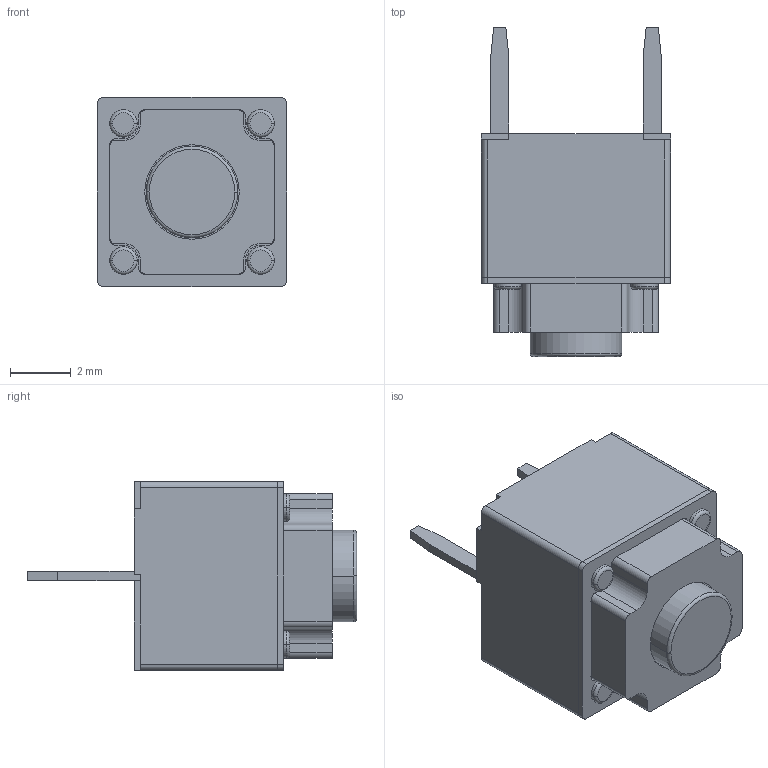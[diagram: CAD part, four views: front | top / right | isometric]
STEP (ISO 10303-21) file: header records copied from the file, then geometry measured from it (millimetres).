
FILE_DESCRIPTION((''),'2;1');
FILE_NAME('JSE6060-H0350-30C-104_ASM','2026-05-26T11:19:37',('Admin'),(''),'CREO PARAMETRIC BY PTC INC, 2019224','CREO PARAMETRIC BY PTC INC, 2019224','');
FILE_SCHEMA(('AUTOMOTIVE_DESIGN { 1 0 10303 214 1 1 1 1 }'));
Length unit declared in the file: millimetre
Products named in the file (3): JSE6060-H0350-30C-104_05; JSE6060-H0350-30C-104_06; JSE6060-H0350-30C-104_ASM
Assembly tree (2 placements, depth 2):
  JSE6060-H0350-30C-104_ASM
    JSE6060-H0350-30C-104_05
    JSE6060-H0350-30C-104_06
Bounding box: 6.2 x 10.8 x 6.2 mm (x, y, z)
Volume: 233.6 mm3; surface area: 319.5 mm2
Topology: 2 solids, 2 shells, 143 faces, 383 edges, 266 vertices
Faces by surface type: plane 73, cylinder 60, torus 10
Entity records: 6095 total; most frequent: DIRECTION 831, CARTESIAN_POINT 788, ORIENTED_EDGE 744, PRESENTATION_STYLE_ASSIGNMENT 407, STYLED_ITEM 388, CURVE_STYLE 386, EDGE_CURVE 372, AXIS2_PLACEMENT_3D 294
